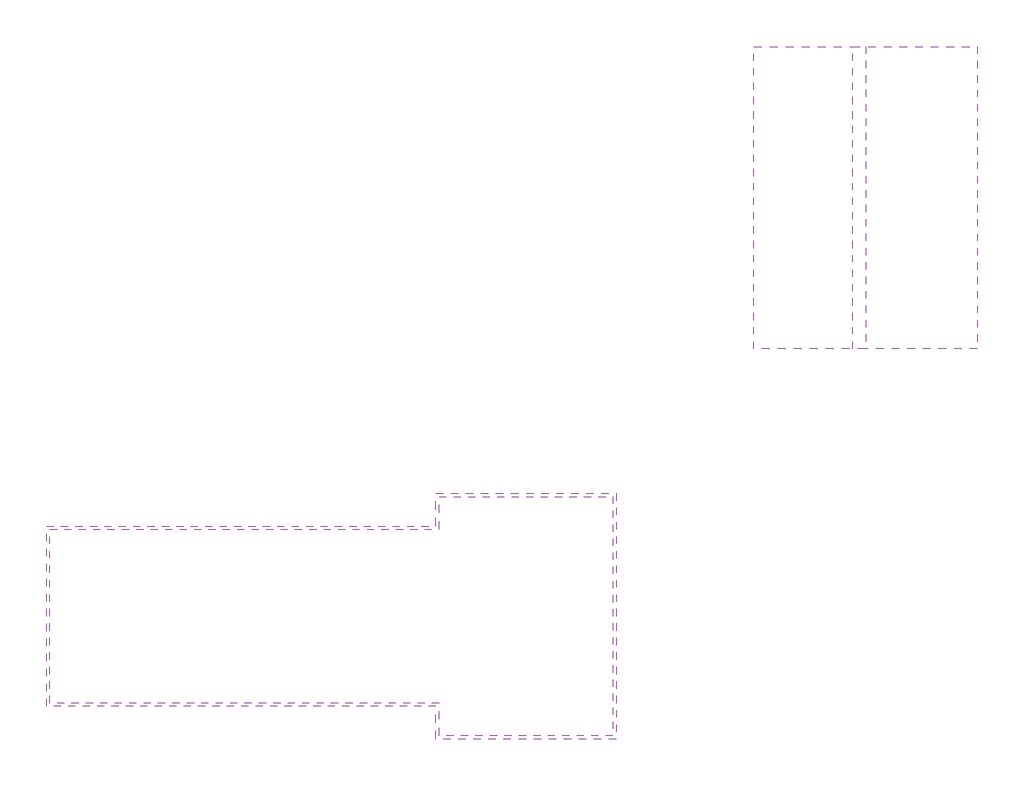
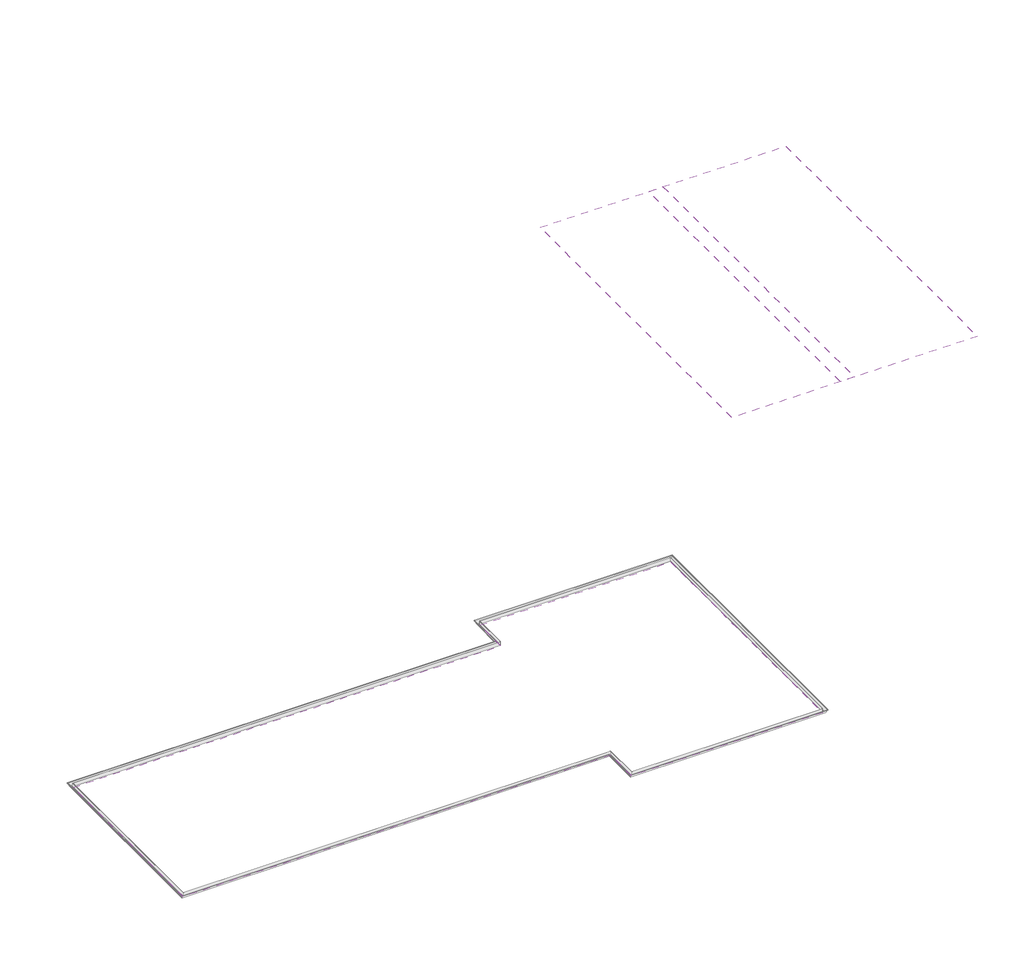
# One storey: 3 roofs, 1 pipe segment.
"""IFC4 building model written with IfcOpenShell, lengths in millimetres."""

from ifc_helpers import new_model, si_unit, frame, origin, place, context, project, spatial, polyline, outline, extrude, faceted_brep, element, save

model = new_model("IFC4")

# Units and contexts
model_context = context("Model", 3, world=origin())
ifc_project = project(units=[si_unit("LENGTHUNIT", "METRE", prefix="MILLI")], contexts=[model_context])

# Site, building, storey
site = spatial("IfcSite", under=ifc_project)
building = spatial("IfcBuilding", under=site)
storey = spatial("IfcBuildingStorey", under=building, Name="Nível 2", Elevation=4000.0)

# Pipe segment
placement = place(None, origin())
element("IfcPipeSegment", 1, ObjectType="Calha", at=placement, inside=storey, context=model_context, shape_type="Brep", body=[
    faceted_brep([(-12733.7381387, -2671.2277243, 8019.4253348), (-12659.5381387, -2597.0277243, 8019.4253348), (2190.4618613, -2597.0277243, 8019.4253348), (2116.2618613, -2671.2277243, 8019.4253348), (-12771.8381387, -2709.3277243, 8118.9375673), (2078.1618613, -2709.3277243, 8118.9375673), (-12784.5381387, -2722.0277243, 8118.9375673), (2065.4618613, -2722.0277243, 8118.9375673), (-12784.5381387, -2722.0277243, 8131.6375673), (2065.4618613, -2722.0277243, 8131.6375673), (-12771.8381387, -2709.3277243, 8131.6375673), (2078.1618613, -2709.3277243, 8131.6375673), (-12771.8381387, -2709.3277243, 8128.4625673), (2078.1618613, -2709.3277243, 8128.4625673), (-12781.3631387, -2718.8527243, 8128.4625673), (2068.6368613, -2718.8527243, 8128.4625673), (-12781.3631387, -2718.8527243, 8122.1125673), (2068.6368613, -2718.8527243, 8122.1125673), (-12769.4758414, -2706.9654269, 8122.1125673), (2080.5241586, -2706.9654269, 8122.1125673), (-12731.3758414, -2668.8654269, 8022.6003348), (2118.6241586, -2668.8654269, 8022.6003348), (-12662.7131387, -2600.2027243, 8022.6003348), (2187.2868613, -2600.2027243, 8022.6003348), (-12662.7131387, -2600.2027243, 8144.3375673), (2187.2868613, -2600.2027243, 8144.3375673), (-12659.5381387, -2597.0277243, 8144.3375673), (2190.4618613, -2597.0277243, 8144.3375673), (-12733.7381387, 4105.1722757, 8019.4253348), (-12659.5381387, 4030.9722757, 8019.4253348), (-12771.8381387, 4143.2722757, 8118.9375673), (-12784.5381387, 4155.9722757, 8118.9375673), (-12784.5381387, 4155.9722757, 8131.6375673), (-12771.8381387, 4143.2722757, 8131.6375673), (-12771.8381387, 4143.2722757, 8128.4625673), (-12781.3631387, 4152.7972757, 8128.4625673), (-12781.3631387, 4152.7972757, 8122.1125673), (-12769.4758414, 4140.9099784, 8122.1125673), (-12731.3758414, 4102.8099784, 8022.6003348), (-12662.7131387, 4034.1472757, 8022.6003348), (-12662.7131387, 4034.1472757, 8144.3375673), (-12659.5381387, 4030.9722757, 8144.3375673), (2116.2618613, 4105.1722757, 8019.4253348), (2190.4618613, 4030.9722757, 8019.4253348), (2078.1618613, 4143.2722757, 8118.9375673), (2065.4618613, 4155.9722757, 8118.9375673), (2065.4618613, 4155.9722757, 8131.6375673), (2078.1618613, 4143.2722757, 8131.6375673), (2078.1618613, 4143.2722757, 8128.4625673), (2068.6368613, 4152.7972757, 8128.4625673), (2068.6368613, 4152.7972757, 8122.1125673), (2080.5241586, 4140.9099784, 8122.1125673), (2118.6241586, 4102.8099784, 8022.6003348), (2187.2868613, 4034.1472757, 8022.6003348), (2187.2868613, 4034.1472757, 8144.3375673), (2190.4618613, 4030.9722757, 8144.3375673), (2116.2618613, 5355.1722757, 8019.4253348), (2190.4618613, 5280.9722757, 8019.4253348), (2078.1618613, 5393.2722757, 8118.9375673), (2065.4618613, 5405.9722757, 8118.9375673), (2065.4618613, 5405.9722757, 8131.6375673), (2078.1618613, 5393.2722757, 8131.6375673), (2078.1618613, 5393.2722757, 8128.4625673), (2068.6368613, 5402.7972757, 8128.4625673), (2068.6368613, 5402.7972757, 8122.1125673), (2080.5241586, 5390.9099784, 8122.1125673), (2118.6241586, 5352.8099784, 8022.6003348), (2187.2868613, 5284.1472757, 8022.6003348), (2187.2868613, 5284.1472757, 8144.3375673), (2190.4618613, 5280.9722757, 8144.3375673), (8892.6618613, 5355.1722757, 8019.4253348), (8818.4618613, 5280.9722757, 8019.4253348), (8930.7618613, 5393.2722757, 8118.9375673), (8943.4618613, 5405.9722757, 8118.9375673), (8943.4618613, 5405.9722757, 8131.6375673), (8930.7618613, 5393.2722757, 8131.6375673), (8930.7618613, 5393.2722757, 8128.4625673), (8940.2868613, 5402.7972757, 8128.4625673), (8940.2868613, 5402.7972757, 8122.1125673), (8928.399564, 5390.9099784, 8122.1125673), (8890.299564, 5352.8099784, 8022.6003348), (8821.6368613, 5284.1472757, 8022.6003348), (8821.6368613, 5284.1472757, 8144.3375673), (8818.4618613, 5280.9722757, 8144.3375673), (8892.6618613, -3921.2277243, 8019.4253348), (8818.4618613, -3847.0277243, 8019.4253348), (8930.7618613, -3959.3277243, 8118.9375673), (8943.4618613, -3972.0277243, 8118.9375673), (8943.4618613, -3972.0277243, 8131.6375673), (8930.7618613, -3959.3277243, 8131.6375673), (8930.7618613, -3959.3277243, 8128.4625673), (8940.2868613, -3968.8527243, 8128.4625673), (8940.2868613, -3968.8527243, 8122.1125673), (8928.399564, -3956.9654269, 8122.1125673), (8890.299564, -3918.8654269, 8022.6003348), (8821.6368613, -3850.2027243, 8022.6003348), (8821.6368613, -3850.2027243, 8144.3375673), (8818.4618613, -3847.0277243, 8144.3375673), (2116.2618613, -3921.2277243, 8019.4253348), (2190.4618613, -3847.0277243, 8019.4253348), (2078.1618613, -3959.3277243, 8118.9375673), (2065.4618613, -3972.0277243, 8118.9375673), (2065.4618613, -3972.0277243, 8131.6375673), (2078.1618613, -3959.3277243, 8131.6375673), (2078.1618613, -3959.3277243, 8128.4625673), (2068.6368613, -3968.8527243, 8128.4625673), (2068.6368613, -3968.8527243, 8122.1125673), (2080.5241586, -3956.9654269, 8122.1125673), (2118.6241586, -3918.8654269, 8022.6003348), (2187.2868613, -3850.2027243, 8022.6003348), (2187.2868613, -3850.2027243, 8144.3375673), (2190.4618613, -3847.0277243, 8144.3375673)], [[[0, 1, 2, 3]], [[4, 0, 3, 5]], [[6, 4, 5, 7]], [[8, 6, 7, 9]], [[10, 8, 9, 11]], [[12, 10, 11, 13]], [[14, 12, 13, 15]], [[16, 14, 15, 17]], [[18, 16, 17, 19]], [[20, 18, 19, 21]], [[22, 20, 21, 23]], [[24, 22, 23, 25]], [[26, 24, 25, 27]], [[1, 26, 27, 2]], [[28, 29, 1, 0]], [[30, 28, 0, 4]], [[31, 30, 4, 6]], [[32, 31, 6, 8]], [[33, 32, 8, 10]], [[34, 33, 10, 12]], [[35, 34, 12, 14]], [[36, 35, 14, 16]], [[37, 36, 16, 18]], [[38, 37, 18, 20]], [[39, 38, 20, 22]], [[40, 39, 22, 24]], [[41, 40, 24, 26]], [[29, 41, 26, 1]], [[42, 43, 29, 28]], [[44, 42, 28, 30]], [[45, 44, 30, 31]], [[46, 45, 31, 32]], [[47, 46, 32, 33]], [[48, 47, 33, 34]], [[49, 48, 34, 35]], [[50, 49, 35, 36]], [[51, 50, 36, 37]], [[52, 51, 37, 38]], [[53, 52, 38, 39]], [[54, 53, 39, 40]], [[55, 54, 40, 41]], [[43, 55, 41, 29]], [[56, 57, 43, 42]], [[58, 56, 42, 44]], [[59, 58, 44, 45]], [[60, 59, 45, 46]], [[61, 60, 46, 47]], [[62, 61, 47, 48]], [[63, 62, 48, 49]], [[64, 63, 49, 50]], [[65, 64, 50, 51]], [[66, 65, 51, 52]], [[67, 66, 52, 53]], [[68, 67, 53, 54]], [[69, 68, 54, 55]], [[57, 69, 55, 43]], [[70, 71, 57, 56]], [[72, 70, 56, 58]], [[73, 72, 58, 59]], [[74, 73, 59, 60]], [[75, 74, 60, 61]], [[76, 75, 61, 62]], [[77, 76, 62, 63]], [[78, 77, 63, 64]], [[79, 78, 64, 65]], [[80, 79, 65, 66]], [[81, 80, 66, 67]], [[82, 81, 67, 68]], [[83, 82, 68, 69]], [[71, 83, 69, 57]], [[84, 85, 71, 70]], [[86, 84, 70, 72]], [[87, 86, 72, 73]], [[88, 87, 73, 74]], [[89, 88, 74, 75]], [[90, 89, 75, 76]], [[91, 90, 76, 77]], [[92, 91, 77, 78]], [[93, 92, 78, 79]], [[94, 93, 79, 80]], [[95, 94, 80, 81]], [[96, 95, 81, 82]], [[97, 96, 82, 83]], [[85, 97, 83, 71]], [[98, 99, 85, 84]], [[100, 98, 84, 86]], [[101, 100, 86, 87]], [[102, 101, 87, 88]], [[103, 102, 88, 89]], [[104, 103, 89, 90]], [[105, 104, 90, 91]], [[106, 105, 91, 92]], [[107, 106, 92, 93]], [[108, 107, 93, 94]], [[109, 108, 94, 95]], [[110, 109, 95, 96]], [[111, 110, 96, 97]], [[99, 111, 97, 85]], [[3, 2, 99, 98]], [[5, 3, 98, 100]], [[7, 5, 100, 101]], [[9, 7, 101, 102]], [[11, 9, 102, 103]], [[13, 11, 103, 104]], [[15, 13, 104, 105]], [[17, 15, 105, 106]], [[19, 17, 106, 107]], [[21, 19, 107, 108]], [[23, 21, 108, 109]], [[25, 23, 109, 110]], [[27, 25, 110, 111]], [[2, 27, 111, 99]]]),
])

# Roofs
element("IfcRoof", 2, ObjectType="Genérico - 125 mm", at=placement, inside=storey, context=model_context, shape_type="SweptSolid", body=[
    extrude(outline(polyline([(10138.0670964, 18459.4842802), (8138.0670964, 14195.4842802), (8000.0, 14195.4842802), (10000.0, 18459.4842802), (10138.0670964, 18459.4842802)])), frame((0.0, 10918.007266, 0.0), z_axis=(0.0, 1.0, 0.0), x_axis=(0.0, 0.0, 1.0)), (0.0, 0.0, 1.0), 11528.0),
])
element("IfcRoof", 3, ObjectType="Genérico - 125 mm", at=placement, inside=storey, context=model_context, shape_type="Brep", body=[
    faceted_brep([(2190.4618613, 4030.9722757, 8000.0), (5504.4618613, 716.9722757, 9913.3387921), (-9345.5381387, 716.9722757, 9913.3387921), (-12659.5381387, 4030.9722757, 8000.0), (-12659.5381387, -2597.0277243, 8000.0), (8818.4618613, 5280.9722757, 8000.0), (5504.4618613, 1966.9722757, 9913.3387921), (2190.4618613, 5280.9722757, 8000.0), (2190.4618613, -3847.0277243, 8000.0), (2190.4618613, -2597.0277243, 8000.0), (5504.4618613, -533.0277243, 9913.3387921), (8818.4618613, -3847.0277243, 8000.0), (2190.4618613, 4030.9722757, 8144.3375673), (-12659.5381387, 4030.9722757, 8144.3375673), (-9345.5381387, 716.9722757, 10057.6763594), (5504.4618613, 716.9722757, 10057.6763594), (-12659.5381387, -2597.0277243, 8144.3375673), (8818.4618613, 5280.9722757, 8144.3375673), (2190.4618613, 5280.9722757, 8144.3375673), (5504.4618613, 1966.9722757, 10057.6763594), (2190.4618613, -2597.0277243, 8144.3375673), (2190.4618613, -3847.0277243, 8144.3375673), (5504.4618613, -533.0277243, 10057.6763594), (8818.4618613, -3847.0277243, 8144.3375673)], [[[0, 1, 2, 3]], [[3, 2, 4]], [[5, 6, 7]], [[8, 9, 1, 10]], [[8, 10, 11]], [[11, 10, 1, 6, 5]], [[4, 2, 1, 9]], [[0, 7, 6, 1]], [[12, 13, 14, 15]], [[13, 16, 14]], [[17, 18, 19]], [[20, 21, 22, 15]], [[21, 23, 22]], [[23, 17, 19, 15, 22]], [[16, 20, 15, 14]], [[12, 15, 19, 18]], [[3, 13, 12, 0]], [[4, 16, 13, 3]], [[9, 20, 16, 4]], [[8, 21, 20, 9]], [[11, 23, 21, 8]], [[5, 17, 23, 11]], [[7, 18, 17, 5]], [[0, 12, 18, 7]]]),
])
element("IfcRoof", 4, ObjectType="Genérico - 125 mm", at=placement, inside=storey, context=model_context, shape_type="SweptSolid", body=[
    extrude(outline(polyline([(8155.1083248, 22723.4842802), (11655.1083248, 17959.4842802), (11500.0, 17959.4842802), (8000.0, 22723.4842802), (8155.1083248, 22723.4842802)])), frame((0.0, 10918.007266, 0.0), z_axis=(0.0, 1.0, 0.0), x_axis=(0.0, 0.0, 1.0)), (0.0, 0.0, 1.0), 11528.0),
])

save(model, "model.ifc")
